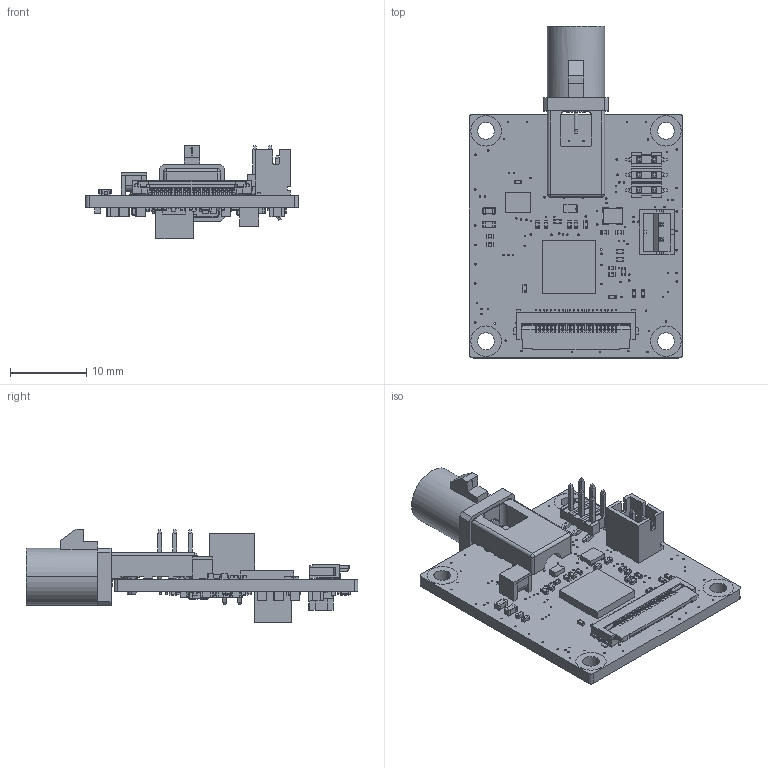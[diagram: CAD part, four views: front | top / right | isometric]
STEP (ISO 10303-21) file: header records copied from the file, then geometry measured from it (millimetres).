
FILE_DESCRIPTION (( 'STEP AP214' ), '1' );
FILE_NAME ('SL ZED LINK SINGLE V1.0_STP_20240204.STEP', '2024-02-04T06:15:23', ( 'Windows 蚚誧' ), ( '' ), 'SwSTEP 2.0', 'SolidWorks 2022', '' );
FILE_SCHEMA (( 'AUTOMOTIVE_DESIGN' ));
Length unit declared in the file: millimetre
Products named in the file (22): 87759-0674; sl zed link single v1.020240131; TQFN48_7X7_MAX9296A ; C1210; SWR201-NRTN-S02-SA-WH; C0603; BL0402; L1210_1210POC-223MRC; C0805; 5052782233; SOT-563_AP61100Z6-7; R0402; L0603_PFL1609-561MEU; 1237161600; ESDALC5-1BF4; L_49x49_NRS5040T4R7NMGKV; MP28167-A-Z (QFN-16, 3x3); C0402; SL ZED LINK SINGLE V1.0_STP_20240204; XL_4_8Z-24.000MAAJ-T; L0806_TFM201610ALMA1R0MTAA
Assembly tree (99 placements, depth 3):
  SL ZED LINK SINGLE V1.0_STP_20240204
    sl zed link single v1.020240131
      sl zed link single v1.020240131
      ESDALC5-1BF4  x5
      R0402  x26
      L0806_TFM201610ALMA1R0MTAA  x2
      C0402  x31
      L1210_1210POC-223MRC
      C0603  x10
      SOT-563_AP61100Z6-7  x2
      5052782233
      C0805  x8
      MP28167-A-Z (QFN-16, 3x3)
      L_49x49_NRS5040T4R7NMGKV
      XL_4_8Z-24.000MAAJ-T
      L0603_PFL1609-561MEU
      TQFN48_7X7_MAX9296A 
      BL0402  x2
      C1210
      1237161600
      SWR201-NRTN-S02-SA-WH
      87759-0674
Bounding box: 28 x 43.55 x 12.25 mm (x, y, z)
Volume: 2265.5 mm3; surface area: 4990.9 mm2
Topology: 192 solids, 235 shells, 6265 faces, 15863 edges, 9788 vertices
Faces by surface type: plane 3956, cylinder 1819, sphere 402, bspline 36, cone 34, torus 18
Entity records: 104930 total; most frequent: CARTESIAN_POINT 18650, ORIENTED_EDGE 16294, DIRECTION 15947, EDGE_CURVE 8151, VECTOR 6309, LINE 6309, VERTEX_POINT 5320, AXIS2_PLACEMENT_3D 4819
